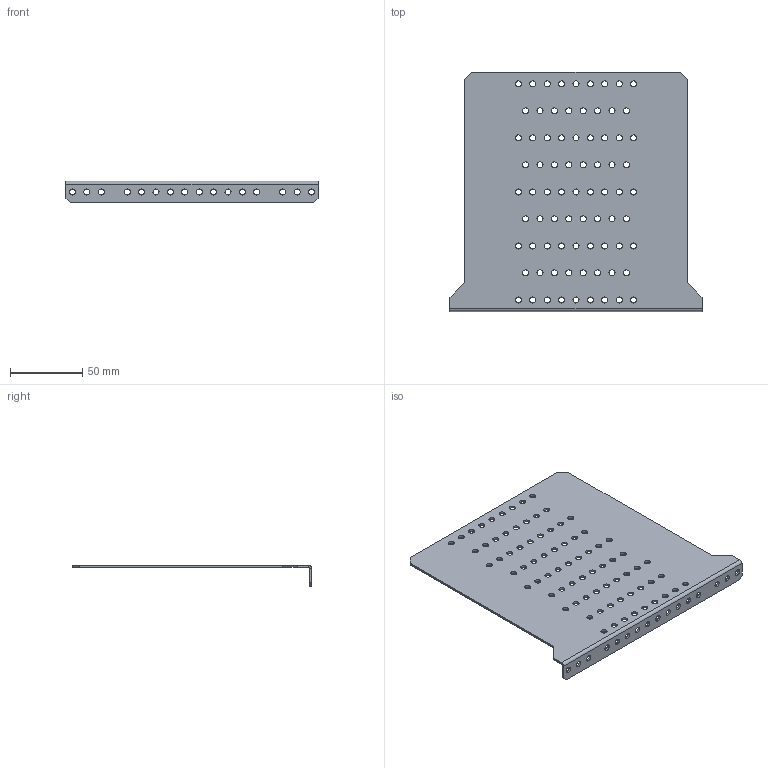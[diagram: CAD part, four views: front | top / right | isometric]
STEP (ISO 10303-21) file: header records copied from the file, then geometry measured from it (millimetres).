
FILE_DESCRIPTION(('CAx-IF Rec.Pracs.---Model Styling and Organization---1.2---2011-12-15','CAx-IF Rec.Pracs.---Geometric and Assembly Validation Properties---4.1---2014-06-16','CAx-IF Rec.Pracs.---PMI Polyline Presentation---2.0---2013-05-24'),'2;1');
FILE_NAME('R5M2W4M2BP.stp','2021-05-05T12:22:07+03:00',(''),(''),'STEP Interface 4.4 by CT CoreTechnologie','3D_Evolution4.4 by CT CoreTechnologie','');
FILE_SCHEMA(('AUTOMOTIVE_DESIGN { 1 0 10303 214 1 1 1 1 }'));
Length unit declared in the file: millimetre
Products named in the file (2): R5M2W4M2BP; RB.1200.00.00.0_-05
Assembly tree (1 placements, depth 2):
  R5M2W4M2BP
    RB.1200.00.00.0_-05
Bounding box: 175 x 166 x 15 mm (x, y, z)
Surface area: 56808.1 mm2 (no closed solid volume)
Topology: 0 solids, 1 shells, 208 faces, 610 edges, 404 vertices
Faces by surface type: cylinder 188, plane 20
Entity records: 7571 total; most frequent: DIRECTION 1406, CARTESIAN_POINT 1224, ORIENTED_EDGE 1220, EDGE_CURVE 610, AXIS2_PLACEMENT_3D 586, VERTEX_POINT 404, EDGE_LOOP 394, CIRCLE 376
